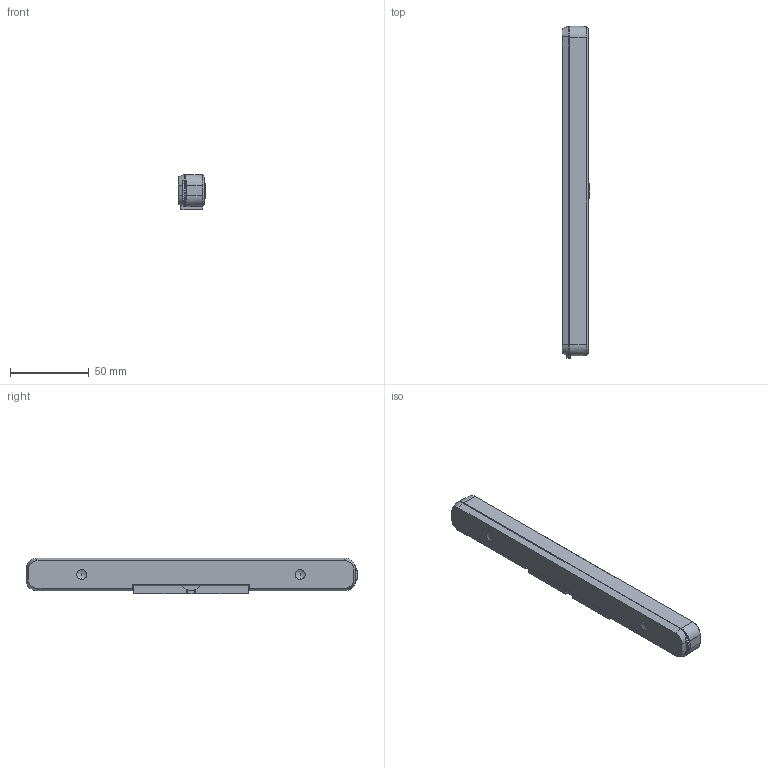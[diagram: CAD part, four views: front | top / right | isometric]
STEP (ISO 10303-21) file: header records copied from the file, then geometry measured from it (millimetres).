
FILE_DESCRIPTION (( 'STEP AP203' ), '1' );
FILE_NAME ('LuckyLine_24.STEP', '2024-12-02T08:30:49', ( '' ), ( '' ), 'SwSTEP 2.0', 'SolidWorks 2023', '' );
FILE_SCHEMA (( 'CONFIG_CONTROL_DESIGN' ));
Length unit declared in the file: millimetre
Products named in the file (3): Leuchte_Lucy_Line; LuckyLine_24; 3697211_Zeichnungsdaten_Mit Anbaubret V2
Assembly tree (2 placements, depth 2):
  LuckyLine_24
    Leuchte_Lucy_Line
    3697211_Zeichnungsdaten_Mit Anbaubret V2
Bounding box: 17.5 x 211.28 x 22.4 mm (x, y, z)
Volume: 62890 mm3; surface area: 24916.4 mm2
Topology: 3 solids, 3 shells, 252 faces, 669 edges, 429 vertices
Faces by surface type: plane 125, cylinder 71, cone 24, sphere 20, bspline 10, torus 2
Entity records: 8156 total; most frequent: CARTESIAN_POINT 1709, DIRECTION 1291, ORIENTED_EDGE 1270, EDGE_CURVE 635, AXIS2_PLACEMENT_3D 449, VERTEX_POINT 413, VECTOR 393, LINE 393
